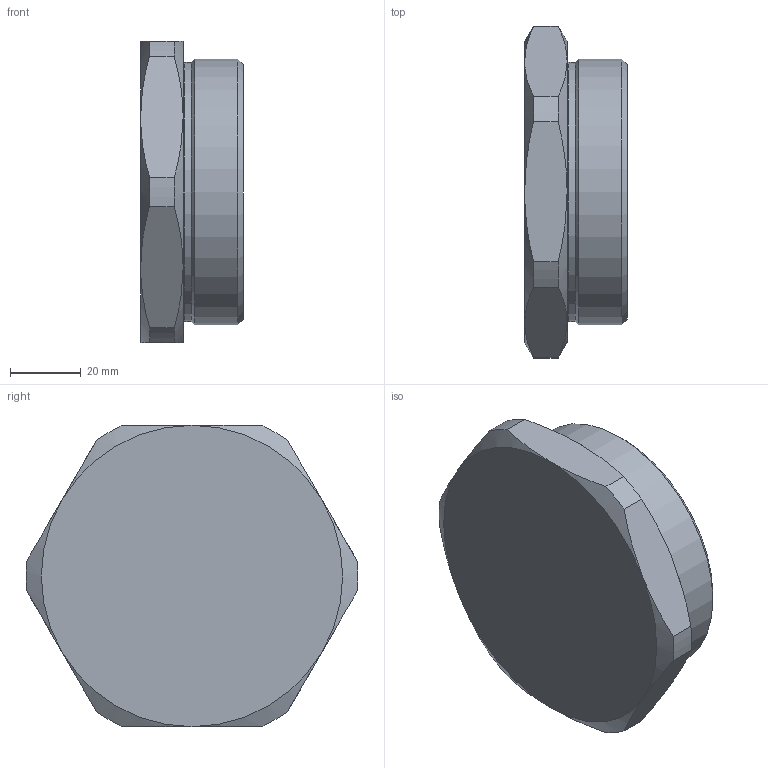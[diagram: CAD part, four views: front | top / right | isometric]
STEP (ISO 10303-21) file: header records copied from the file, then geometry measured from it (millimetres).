
FILE_DESCRIPTION (( 'STEP AP214' ), '1' );
FILE_NAME ('ﾂﾇﾍ7Mﾍ.STEP', '2021-05-19T08:05:58', ( '' ), ( '' ), 'SwSTEP 2.0', 'SolidWorks 2018', '' );
FILE_SCHEMA (( 'AUTOMOTIVE_DESIGN' ));
Length unit declared in the file: millimetre
Products named in the file (1): ﾂﾇﾍ7Mﾍ
Bounding box: 29 x 93.66 x 85 mm (x, y, z)
Volume: 96274.7 mm3; surface area: 22637 mm2
Topology: 1 solids, 1 shells, 35 faces, 77 edges, 46 vertices
Faces by surface type: cone 15, plane 10, cylinder 9, torus 1
Full cylindrical faces by diameter (mm): 62 x1, 73.1 x1, 75 x1
Entity records: 1093 total; most frequent: CARTESIAN_POINT 334, DIRECTION 150, ORIENTED_EDGE 138, EDGE_CURVE 69, AXIS2_PLACEMENT_3D 69, VERTEX_POINT 45, EDGE_LOOP 44, FACE_OUTER_BOUND 39
